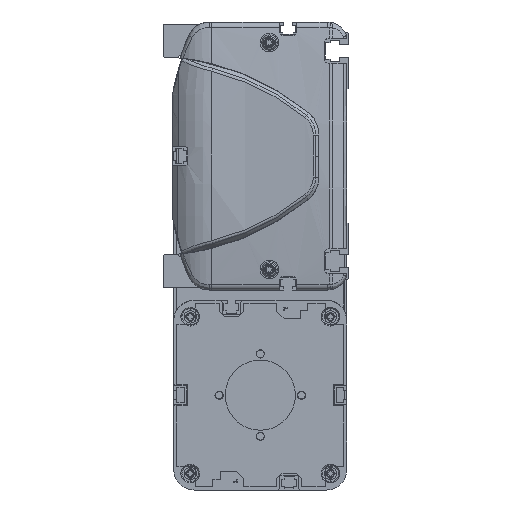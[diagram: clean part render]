
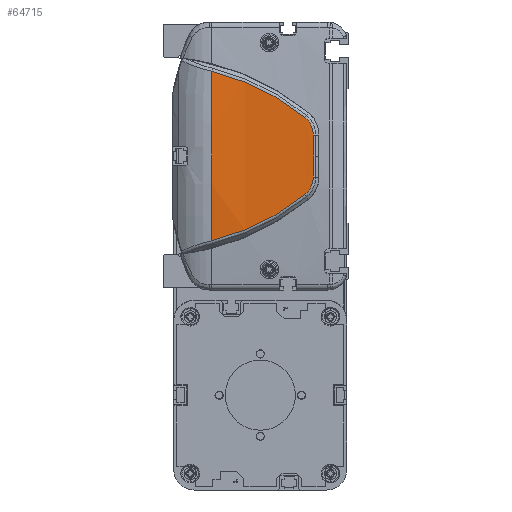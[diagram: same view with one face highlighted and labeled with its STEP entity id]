
A CAD part, left-side view. The second image highlights one B-rep face of the part: STEP entity #64715.
In plain terms, the highlighted cylindrical face has radius 500 mm (diameter 1000 mm), a partial arc.
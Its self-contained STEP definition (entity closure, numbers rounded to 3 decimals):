
#60964=CARTESIAN_POINT('',(-814.,66.962,0.));
#60965=DIRECTION('',(0.,-1.,0.));
#60966=DIRECTION('',(-0.997,0.,0.082));
#60967=AXIS2_PLACEMENT_3D('',#60964,#60965,#60966);
#61851=CARTESIAN_POINT('',(-1313.648,21.913,
-18.759));
#61852=CARTESIAN_POINT('',(-1313.449,28.504,
-24.058));
#61853=CARTESIAN_POINT('',(-1312.934,42.795,
-33.27));
#61854=CARTESIAN_POINT('',(-1312.471,58.756,
-39.127));
#61855=CARTESIAN_POINT('',(-1312.306,66.962,
-41.121));
#61857=CARTESIAN_POINT('',(-1312.306,66.962,
41.121));
#61858=CARTESIAN_POINT('',(-1312.471,58.756,
39.127));
#61859=CARTESIAN_POINT('',(-1312.934,42.795,
33.27));
#61860=CARTESIAN_POINT('',(-1313.449,28.504,
24.058));
#61861=CARTESIAN_POINT('',(-1313.648,21.913,
18.759));
#61863=CARTESIAN_POINT('',(-1313.648,21.913,
18.759));
#61864=CARTESIAN_POINT('',(-1313.686,20.635,
17.736));
#61865=CARTESIAN_POINT('',(-1313.779,18.536,
15.107));
#61866=CARTESIAN_POINT('',(-1313.863,17.752,
11.827));
#61867=CARTESIAN_POINT('',(-1313.896,17.724,
10.178));
#61869=CARTESIAN_POINT('',(-1313.896,17.724,
10.178));
#61870=CARTESIAN_POINT('',(-1313.92,17.707,
9.026));
#61871=CARTESIAN_POINT('',(-1313.959,17.667,
6.736));
#61872=CARTESIAN_POINT('',(-1313.993,17.58,
3.342));
#61873=CARTESIAN_POINT('',(-1314.,17.498,
1.109));
#61874=CARTESIAN_POINT('',(-1314.,17.449,
0.));
#61876=CARTESIAN_POINT('',(-1314.,17.449,
0.));
#61877=CARTESIAN_POINT('',(-1314.,17.498,
-1.109));
#61878=CARTESIAN_POINT('',(-1313.993,17.58,
-3.342));
#61879=CARTESIAN_POINT('',(-1313.959,17.667,
-6.735));
#61880=CARTESIAN_POINT('',(-1313.92,17.707,
-9.028));
#61881=CARTESIAN_POINT('',(-1313.896,17.724,
-10.18));
#61883=CARTESIAN_POINT('',(-1313.896,17.724,
-10.18));
#61884=CARTESIAN_POINT('',(-1313.863,17.752,
-11.828));
#61885=CARTESIAN_POINT('',(-1313.779,18.537,
-15.109));
#61886=CARTESIAN_POINT('',(-1313.686,20.635,
-17.736));
#61887=CARTESIAN_POINT('',(-1313.648,21.913,
-18.759));
#62537=VERTEX_POINT('',#61851);
#62538=VERTEX_POINT('',#61855);
#62539=CARTESIAN_POINT('',(-1312.306,66.962,
41.121));
#62540=VERTEX_POINT('',#62539);
#62541=VERTEX_POINT('',#61861);
#62542=VERTEX_POINT('',#61867);
#62543=VERTEX_POINT('',#61874);
#62544=VERTEX_POINT('',#61881);
#64696=CARTESIAN_POINT('',(-814.,8.606,0.));
#64697=DIRECTION('',(0.,1.,0.));
#64698=DIRECTION('',(1.,0.,0.));
#64699=AXIS2_PLACEMENT_3D('',#64696,#64697,#64698);
#64700=CYLINDRICAL_SURFACE('',#64699,500.);
#64702=ORIENTED_EDGE('',*,*,#64701,.T.);
#64703=ORIENTED_EDGE('',*,*,#63339,.F.);
#64705=ORIENTED_EDGE('',*,*,#64704,.T.);
#64707=ORIENTED_EDGE('',*,*,#64706,.T.);
#64709=ORIENTED_EDGE('',*,*,#64708,.T.);
#64711=ORIENTED_EDGE('',*,*,#64710,.T.);
#64712=ORIENTED_EDGE('',*,*,#64686,.T.);
#64713=EDGE_LOOP('',(#64702,#64703,#64705,#64707,#64709,#64711,#64712));
#64714=FACE_OUTER_BOUND('',#64713,.F.);
#64715=ADVANCED_FACE('',(#64714),#64700,.T.);
#60968=CIRCLE('',#60967,500.);
#61856=B_SPLINE_CURVE_WITH_KNOTS('',3,(#61851,#61852,#61853,#61854,#61855),
.UNSPECIFIED.,.F.,.F.,(4,1,4),(0.,0.5,1.),.UNSPECIFIED.);
#61862=B_SPLINE_CURVE_WITH_KNOTS('',3,(#61857,#61858,#61859,#61860,#61861),
.UNSPECIFIED.,.F.,.F.,(4,1,4),(0.,0.5,1.),.UNSPECIFIED.);
#61868=B_SPLINE_CURVE_WITH_KNOTS('',3,(#61863,#61864,#61865,#61866,#61867),
.UNSPECIFIED.,.F.,.F.,(4,1,4),(0.,0.5,1.),.UNSPECIFIED.);
#61875=B_SPLINE_CURVE_WITH_KNOTS('',3,(#61869,#61870,#61871,#61872,#61873,
#61874),.UNSPECIFIED.,.F.,.F.,(4,1,1,4),(0.,0.333,
0.667,1.),.UNSPECIFIED.);
#61882=B_SPLINE_CURVE_WITH_KNOTS('',3,(#61876,#61877,#61878,#61879,#61880,
#61881),.UNSPECIFIED.,.F.,.F.,(4,1,1,4),(0.,0.333,
0.667,1.),.UNSPECIFIED.);
#61888=B_SPLINE_CURVE_WITH_KNOTS('',3,(#61883,#61884,#61885,#61886,#61887),
.UNSPECIFIED.,.F.,.F.,(4,1,4),(0.,0.5,1.),.UNSPECIFIED.);
#63339=EDGE_CURVE('',#62540,#62538,#60968,.T.);
#64686=EDGE_CURVE('',#62544,#62537,#61888,.T.);
#64701=EDGE_CURVE('',#62537,#62538,#61856,.T.);
#64704=EDGE_CURVE('',#62540,#62541,#61862,.T.);
#64706=EDGE_CURVE('',#62541,#62542,#61868,.T.);
#64708=EDGE_CURVE('',#62542,#62543,#61875,.T.);
#64710=EDGE_CURVE('',#62543,#62544,#61882,.T.);
